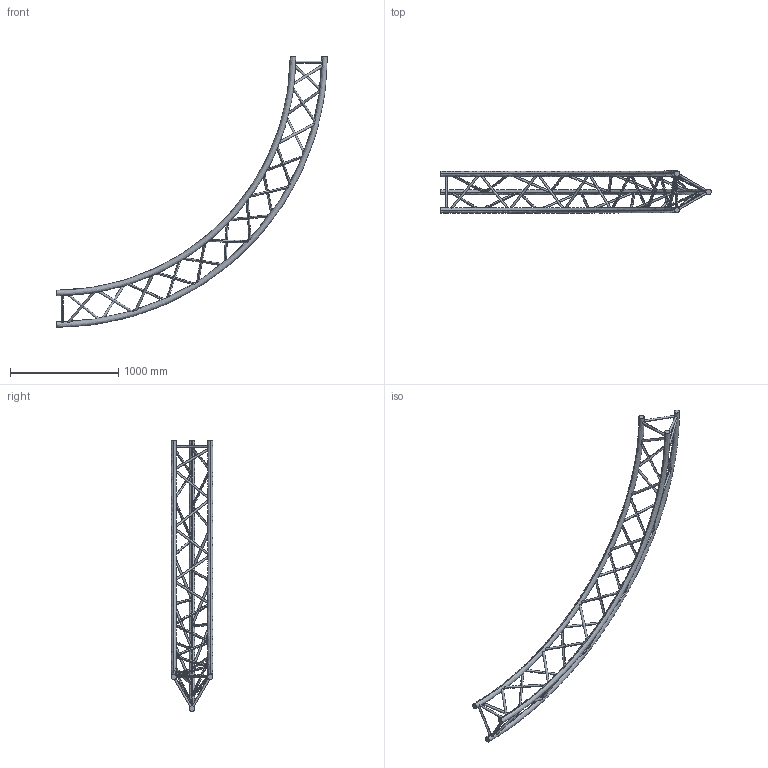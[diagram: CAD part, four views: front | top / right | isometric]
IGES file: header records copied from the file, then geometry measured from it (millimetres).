
Start section: SolidWorks IGES file using analytic representation for surfaces
Global section: file name: K:\BIBLIO\asd_biblio\SX390\Cercles\SXC39PE\SXC39500PE\SXC39500PE.IGS; native system: SolidWorks 2009; preprocessor: SolidWorks 2009; author: des3; date: 091021.141336; units: millimetre
Bounding box: 2500 x 387 x 2500 mm (x, y, z)
Surface area: 2633013.9 mm2 (no closed solid volume)
Topology: 0 solids, 0 shells, 96 faces, 7017 edges, 7017 vertices
Faces by surface type: revolution 84, bspline 12
